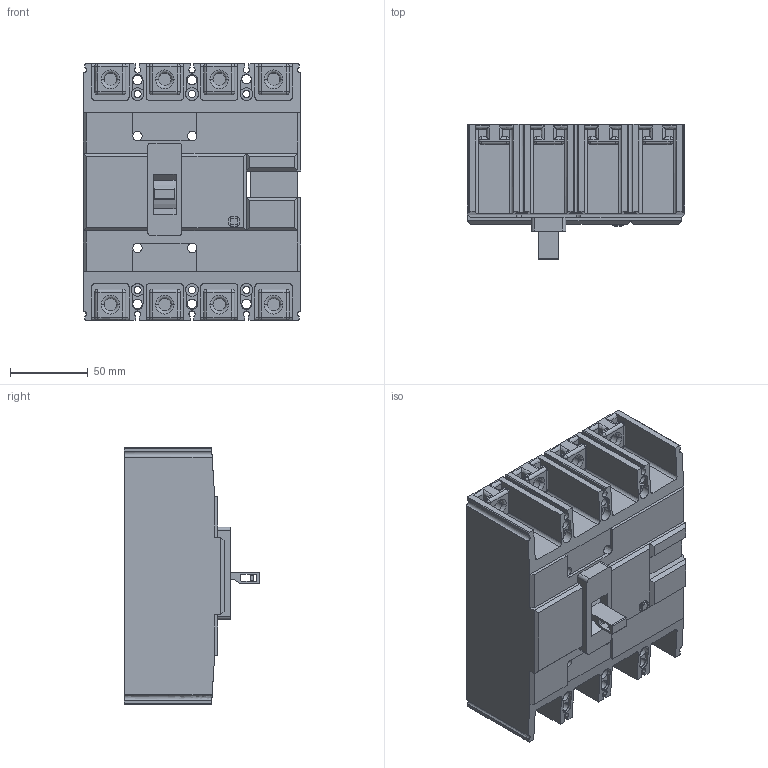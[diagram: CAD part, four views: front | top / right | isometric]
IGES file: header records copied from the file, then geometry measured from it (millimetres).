
Start section:  PTC IGES file: 22-metasol-mccb-250af-4p.igs
Global section: file name: 22-metasol-mccb-250af-4p.igs; native system: Pro/ENGINEER by Parametric Technology Corporation; preprocessor: 2010280; author: mgkimb; organization: Unknown; date: 20131029.143459; units: millimetre
Bounding box: 140 x 86.85 x 165 mm (x, y, z)
Surface area: 137687.8 mm2 (no closed solid volume)
Topology: 0 solids, 0 shells, 609 faces, 3012 edges, 3011 vertices
Faces by surface type: revolution 359, bspline 250
